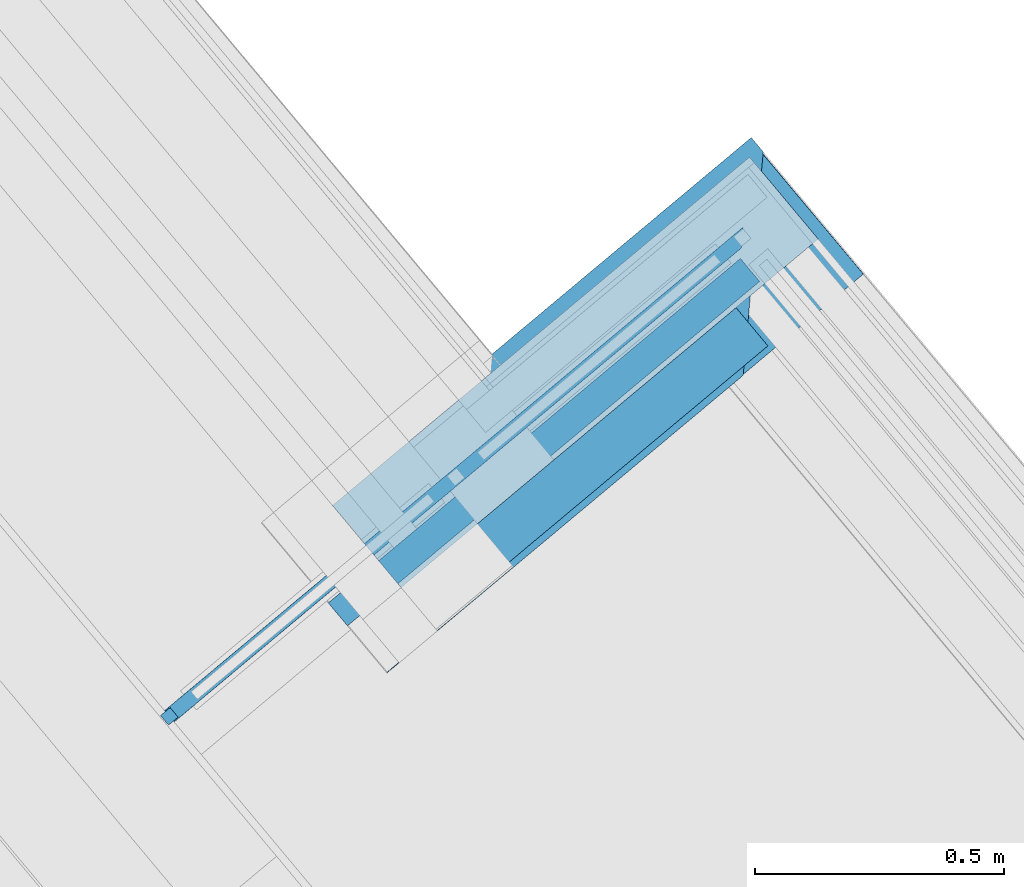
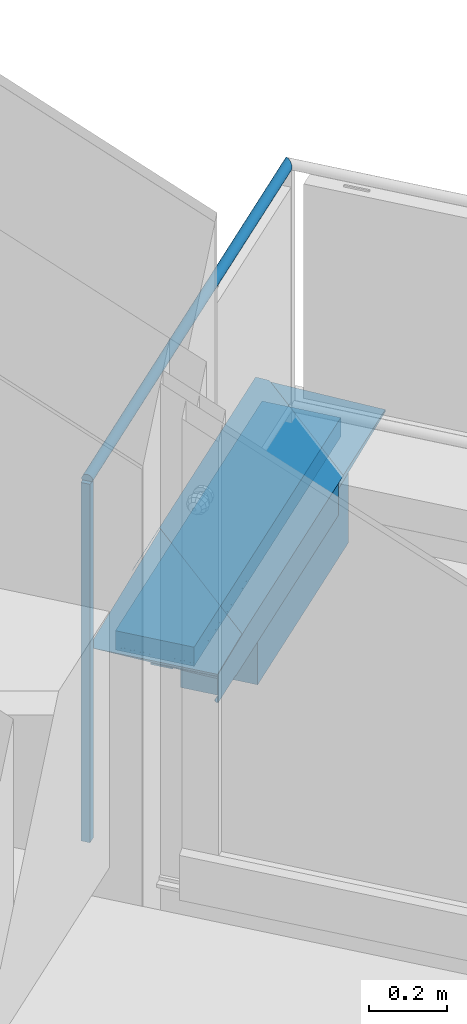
# One storey, part 37 of 58: 7 building element parts, 2 elements without a shape of their own.
"""IFC4 building model written with IfcOpenShell, lengths in metres."""

from ifc_helpers import new_model, entity, si_unit, converted_unit, derived_unit, direction, frame, origin_with_axes, place, context, subcontext, project, spatial, polygons, material, type_object, element, aggregate, save


model = new_model("IFC4")

# Units and contexts
model_context = context("Model", 3, precision=1e-05, world=origin_with_axes(), true_north=direction((0.0, 1.0)))
body_context = subcontext(model_context, "Body", "Model", "MODEL_VIEW")
ifc_project = project(units=[si_unit("LENGTHUNIT", "METRE"), si_unit("AREAUNIT", "SQUARE_METRE"), si_unit("VOLUMEUNIT", "CUBIC_METRE"), converted_unit("PLANEANGLEUNIT", "DEGREE", entity("IfcPlaneAngleMeasure", 0.0174532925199), si_unit("PLANEANGLEUNIT", "RADIAN"), dimensions=[0, 0, 0, 0, 0, 0, 0]), converted_unit("TIMEUNIT", "Year", entity("IfcTimeMeasure", 31556926.0), si_unit("TIMEUNIT", "SECOND"), dimensions=[0, 0, 1, 0, 0, 0, 0]), si_unit("MASSUNIT", "GRAM", prefix="KILO"), si_unit("THERMODYNAMICTEMPERATUREUNIT", "DEGREE_CELSIUS"), si_unit("LUMINOUSINTENSITYUNIT", "LUMEN"), si_unit("ENERGYUNIT", "JOULE", prefix="MEGA"), derived_unit("THERMALCONDUCTANCEUNIT", [(si_unit("POWERUNIT", "WATT"), 1), (si_unit("LENGTHUNIT", "METRE"), -1), (si_unit("THERMODYNAMICTEMPERATUREUNIT", "KELVIN"), -1)]), derived_unit("SPECIFICHEATCAPACITYUNIT", [(si_unit("ENERGYUNIT", "JOULE"), 1), (si_unit("MASSUNIT", "GRAM", prefix="KILO"), -1), (si_unit("THERMODYNAMICTEMPERATUREUNIT", "KELVIN"), -1)]), derived_unit("MASSDENSITYUNIT", [(si_unit("MASSUNIT", "GRAM", prefix="KILO"), 1), (si_unit("VOLUMEUNIT", "CUBIC_METRE"), -1)])], contexts=[model_context])

# Site, building, storey
site_placement = place(None, frame((-0.00153261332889, -0.00661245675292, 0.0), z_axis=(0.0, 0.0, 1.0), x_axis=(1.0, 0.0, 0.0)))
site = spatial("IfcSite", under=ifc_project, at=site_placement, Name="Site", CompositionType="ELEMENT")
building_placement = place(site_placement, origin_with_axes())
building = spatial("IfcBuilding", under=site, at=building_placement, Name="Building", CompositionType="ELEMENT")
storey_placement = place(building_placement, frame((0.0, 0.0, 5.7), z_axis=(0.0, 0.0, 1.0), x_axis=(1.0, 0.0, 0.0)))
storey = spatial("IfcBuildingStorey", under=building, at=storey_placement, Name="DG1", CompositionType="ELEMENT", Elevation=5.7)

# Wall, building element parts
wall_type = type_object("IfcWallType", Name="Bauteil - Attika Balkon 356 x 610", PredefinedType="NOTDEFINED")
wall_placement = place(storey_placement, frame((10.0769189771, 25.3809042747, -0.2), z_axis=(0.0, 0.0, 1.0), x_axis=(0.767365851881, 0.641209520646, 0.0)))
wall = element("IfcWall", 1, at=wall_placement, inside=storey, type_object=wall_type, Name="Wand-003", PredefinedType="NOTDEFINED")
ifc_material_1 = material(Name="Brettschichtholz")
building_element_part_1_placement = place(wall_placement, origin_with_axes())
building_element_part_1 = element("IfcBuildingElementPart", 2, at=building_element_part_1_placement, material=ifc_material_1, Name="Brettschichtholz", PredefinedType="NOTDEFINED", context=body_context, shape_type="Tessellation", body=[
    polygons([(-0.2, 0.010142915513, 0.560000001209), (-0.2, 0.0, 0.560000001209), (0.891929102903, 0.0, 0.56000000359), (0.891929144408, 0.010142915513, 0.56000000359), (-0.2, 0.0, 0.519273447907), (-0.2, 0.0701429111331, 0.560000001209), (-0.2, 0.130124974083, 0.560000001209), (-0.2, 0.190124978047, 0.560000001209), (-0.2, 0.214999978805, 0.560000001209), (-0.2, 0.214999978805, 0.519273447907), (-0.2, 0.0, 0.519224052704), (-0.2, 0.0, 0.511410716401), (0.21499996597, 0.0, 0.511410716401), (0.238182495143, 0.0, 0.511410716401), (0.240097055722, 0.0, 0.511410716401), (0.240146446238, 0.0, 0.511361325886), (0.23823188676, 0.0, 0.511361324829), (0.214999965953, 0.0, 0.511361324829), (-0.200000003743, 0.0, 0.511361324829), (-0.2, 0.0, 0.509099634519), (0.214999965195, 0.0, 0.509099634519), (0.240493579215, 0.0, 0.509099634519), (0.240592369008, 0.0, 0.509099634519), (0.240542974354, 0.0, 0.509050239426), (0.214999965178, 0.0, 0.50905023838), (-0.200000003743, 0.0, 0.50905023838), (-0.2, 0.0, 0.506731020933), (-0.2, 0.0, 0.499999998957), (0.89192910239, 0.0, 0.499999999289), (0.891929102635, 0.0, 0.509099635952), (0.891929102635, 0.0, 0.511410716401), (0.891929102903, 0.0, 0.519273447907), (0.891929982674, 0.214999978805, 0.519273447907), (0.891929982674, 0.214999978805, 0.56000000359), (0.891929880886, 0.190124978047, 0.56000000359), (0.891929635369, 0.130124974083, 0.56000000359), (0.891929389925, 0.0701429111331, 0.56000000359), (0.891929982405, 0.214999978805, 0.511410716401), (0.891929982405, 0.214999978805, 0.509099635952), (0.89192998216, 0.214999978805, 0.499999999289), (-0.2, 0.214999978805, 0.499999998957), (-0.2, 0.214999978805, 0.506731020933), (-0.200000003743, 0.214999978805, 0.50905023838), (0.214999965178, 0.214999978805, 0.50905023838), (0.240542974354, 0.214999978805, 0.509050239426), (0.240592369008, 0.214999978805, 0.509099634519), (0.240493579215, 0.214999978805, 0.509099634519), (0.214999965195, 0.214999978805, 0.509099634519), (-0.2, 0.214999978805, 0.509099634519), (-0.200000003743, 0.214999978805, 0.511361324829), (0.214999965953, 0.214999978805, 0.511361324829), (0.23823188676, 0.214999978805, 0.511361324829), (0.240146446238, 0.214999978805, 0.511361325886), (0.240097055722, 0.214999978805, 0.511410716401), (0.238182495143, 0.214999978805, 0.511410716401), (0.21499996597, 0.214999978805, 0.511410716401), (-0.2, 0.214999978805, 0.511410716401), (-0.2, 0.214999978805, 0.519224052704)], [[[1, 2, 3, 4]], [[5, 2, 1, 6, 7, 8, 9, 10]], [[2, 5, 11, 12, 13, 14, 15, 16, 17, 18, 19, 20, 21, 22, 23, 24, 25, 26, 27, 28, 29, 30, 31, 32, 3]], [[4, 3, 32, 33, 34, 35, 36, 37]], [[6, 1, 4, 37]], [[7, 6, 37, 36]], [[8, 7, 36, 35]], [[9, 8, 35, 34]], [[10, 9, 34, 33, 38, 39, 40, 41, 42, 43, 44, 45, 46, 47, 48, 49, 50, 51, 52, 53, 54, 55, 56, 57, 58]], [[5, 10, 58, 11]], [[11, 58, 57, 12]], [[12, 57, 56, 13]], [[55, 14, 13, 56]], [[15, 14, 55, 54]], [[16, 15, 54, 53]], [[17, 16, 53, 52]], [[17, 52, 51, 18]], [[18, 51, 50, 19]], [[19, 50, 49, 20]], [[20, 49, 48, 21]], [[47, 22, 21, 48]], [[23, 22, 47, 46]], [[24, 23, 46, 45]], [[24, 45, 44, 25]], [[25, 44, 43, 26]], [[26, 43, 42, 27]], [[27, 42, 41, 28]], [[28, 41, 40, 29]], [[39, 30, 29, 40]], [[38, 31, 30, 39]], [[33, 32, 31, 38]]], closed=True),
])
ifc_material_2 = material(Name="Vollholz")
building_element_part_2_placement = place(wall_placement, origin_with_axes())
building_element_part_2 = element("IfcBuildingElementPart", 3, at=building_element_part_2_placement, material=ifc_material_2, Name="Vollholz", PredefinedType="NOTDEFINED", context=body_context, shape_type="Tessellation", body=[
    polygons([(0.747072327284, 0.0701429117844, 0.57982217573), (0.747072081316, 0.0100326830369, 0.57982217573), (0.747072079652, 0.0100562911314, 0.575576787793), (0.747072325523, 0.0701429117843, 0.575576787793), (0.747072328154, 0.0701429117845, 0.581921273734), (-0.100000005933, 0.0100540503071, 0.57597974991), (-0.111539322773, 0.0100562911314, 0.575576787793), (-0.160110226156, 0.010065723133, 0.573880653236), (-0.160063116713, 0.0100987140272, 0.567947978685), (-0.160000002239, 0.0101429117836, 0.559999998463), (0.747072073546, 0.0101429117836, 0.559999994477), (-0.332051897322, 0.0100326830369, 0.579822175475), (-0.332051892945, 0.0100540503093, 0.575979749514), (-0.330698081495, 0.0100540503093, 0.575979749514), (-0.330280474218, 0.0100540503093, 0.57597974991), (0.747072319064, 0.0701429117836, 0.559999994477), (-0.160000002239, 0.0701429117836, 0.559999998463), (-0.160063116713, 0.0701429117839, 0.567947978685), (-0.160110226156, 0.0701429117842, 0.573880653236), (-0.111539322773, 0.0701429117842, 0.575576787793), (-0.100000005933, 0.0701429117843, 0.57597974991), (-0.330280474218, 0.0701429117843, 0.57597974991), (-0.330698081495, 0.0701429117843, 0.575979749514), (-0.332051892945, 0.0701429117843, 0.575979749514), (-0.332051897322, 0.0701429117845, 0.581921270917)], [[[1, 2, 3, 4]], [[5, 2, 1]], [[6, 7, 8, 9, 10, 11, 3, 2, 12, 13, 14, 15]], [[4, 3, 11, 16]], [[5, 1, 4, 16, 17, 18, 19, 20, 21, 22, 23, 24, 25]], [[2, 5, 25, 12]], [[7, 6, 21, 20]], [[7, 20, 19, 8]], [[8, 19, 18, 9]], [[9, 18, 17, 10]], [[10, 17, 16, 11]], [[24, 13, 12, 25]], [[23, 14, 13, 24]], [[22, 15, 14, 23]], [[6, 15, 22, 21]]], closed=True),
])
ifc_material_3 = material(Name="EPS 1")
building_element_part_3_placement = place(wall_placement, origin_with_axes())
building_element_part_3 = element("IfcBuildingElementPart", 4, at=building_element_part_3_placement, material=ifc_material_3, Name="EPS 1", PredefinedType="NOTDEFINED", context=body_context, shape_type="Tessellation", body=[
    polygons([(-0.300000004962, 2.39905872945e-10, 0.559999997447), (-0.300000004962, -0.0999999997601, 0.559999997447), (0.676928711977, -0.0999999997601, 0.560000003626), (0.676929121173, 2.39905872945e-10, 0.560000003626), (-0.300000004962, -0.0999999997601, 0.519273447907), (-0.300000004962, 2.39907649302e-10, 0.519273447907), (-0.300000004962, -0.0999999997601, 0.519224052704), (-0.300000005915, -0.0999999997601, 0.511410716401), (-0.300000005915, -0.0999999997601, 0.511361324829), (-0.300000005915, -0.0999999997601, 0.509099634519), (-0.300000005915, -0.0999999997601, 0.50905023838), (-0.300000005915, -0.0999999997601, 0.506731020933), (-0.300000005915, -0.0999999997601, 0.499999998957), (-0.199999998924, -0.0999999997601, 0.500000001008), (-1.82835790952e-09, -0.0999999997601, 0.500000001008), (-1.82835790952e-09, -0.0999999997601, 0.498915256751), (-1.82835790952e-09, -0.0999999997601, 0.498822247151), (-1.82835790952e-09, -0.0999999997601, 0.496604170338), (-1.82835790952e-09, -0.0999999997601, 0.49100648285), (-1.82835790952e-09, -0.0999999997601, 0.488695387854), (-1.82835790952e-09, -0.0999999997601, 0.335), (0.676928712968, -0.0999999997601, 0.334999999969), (0.676928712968, -0.0999999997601, 0.496604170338), (0.676928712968, -0.0999999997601, 0.498915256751), (0.676928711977, -0.0999999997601, 0.499999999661), (0.676928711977, -0.0999999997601, 0.506731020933), (0.676928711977, -0.0999999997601, 0.509099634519), (0.676928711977, -0.0999999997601, 0.511410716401), (0.676928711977, -0.0999999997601, 0.519273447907), (0.676929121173, 2.39907649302e-10, 0.519273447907), (0.676929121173, 2.39907649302e-10, 0.511410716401), (0.676929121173, 2.39907649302e-10, 0.509099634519), (0.676929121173, 2.39907649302e-10, 0.506731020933), (0.676929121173, 2.39912978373e-10, 0.499999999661), (0.676929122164, 2.39911202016e-10, 0.498915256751), (0.676929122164, 2.39911202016e-10, 0.496604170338), (0.676929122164, 2.39905872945e-10, 0.334999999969), (-1.8283543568e-09, 2.39909425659e-10, 0.335), (-1.8283543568e-09, 2.39909425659e-10, 0.488695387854), (-1.8283543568e-09, 2.39909425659e-10, 0.49100648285), (-1.8283543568e-09, 2.39909425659e-10, 0.496604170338), (-1.8283543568e-09, 2.39909425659e-10, 0.498822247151), (-1.8283543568e-09, 2.39909425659e-10, 0.498915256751), (-1.8283543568e-09, 2.39909425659e-10, 0.500000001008), (-0.199999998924, 2.39909425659e-10, 0.500000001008), (-0.300000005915, 2.39909425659e-10, 0.499999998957), (-0.300000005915, 2.39909425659e-10, 0.506731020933), (-0.300000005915, 2.39909425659e-10, 0.50905023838), (-0.300000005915, 2.39909425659e-10, 0.509099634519), (-0.300000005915, 2.39909425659e-10, 0.511361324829), (-0.300000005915, 2.39909425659e-10, 0.511410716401), (-0.300000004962, 2.39907649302e-10, 0.519224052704)], [[[1, 2, 3, 4]], [[5, 2, 1, 6]], [[2, 5, 7, 8, 9, 10, 11, 12, 13, 14, 15, 16, 17, 18, 19, 20, 21, 22, 23, 24, 25, 26, 27, 28, 29, 3]], [[4, 3, 29, 30]], [[6, 1, 4, 30, 31, 32, 33, 34, 35, 36, 37, 38, 39, 40, 41, 42, 43, 44, 45, 46, 47, 48, 49, 50, 51, 52]], [[5, 6, 52, 7]], [[7, 52, 51, 8]], [[8, 51, 50, 9]], [[9, 50, 49, 10]], [[10, 49, 48, 11]], [[11, 48, 47, 12]], [[12, 47, 46, 13]], [[13, 46, 45, 14]], [[15, 14, 45, 44]], [[16, 15, 44, 43]], [[16, 43, 42, 17]], [[17, 42, 41, 18]], [[18, 41, 40, 19]], [[19, 40, 39, 20]], [[20, 39, 38, 21]], [[21, 38, 37, 22]], [[36, 23, 22, 37]], [[35, 24, 23, 36]], [[34, 25, 24, 35]], [[33, 26, 25, 34]], [[32, 27, 26, 33]], [[31, 28, 27, 32]], [[30, 29, 28, 31]]], closed=True),
])
ifc_material_4 = material(Name="Holzwerkstoff")
building_element_part_4_placement = place(wall_placement, origin_with_axes())
building_element_part_4 = element("IfcBuildingElementPart", 5, at=building_element_part_4_placement, material=ifc_material_4, Name="Holzwerkstoff", PredefinedType="NOTDEFINED", context=body_context, shape_type="Tessellation", body=[
    polygons([(-0.112227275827, 0.239720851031, 0.595846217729), (0.239276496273, 0.23927649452, 0.608570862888), (0.916206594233, 0.23927649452, 0.608570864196), (0.916650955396, 0.239720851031, 0.595846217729), (0.916930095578, 0.23999998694, 0.587852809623), (-0.330695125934, 0.23999998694, 0.587852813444), (-0.330698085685, 0.239997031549, 0.587937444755), (-0.112227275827, -0.112247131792, 0.595846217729), (0.916649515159, -0.112247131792, 0.595846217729), (0.91692865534, -0.111967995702, 0.587852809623), (-0.330634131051, 0.189984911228, 0.586106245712), (0.866914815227, 0.189984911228, 0.586106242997), (-0.330634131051, -0.111907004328, 0.586106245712), (-0.330698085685, -0.111970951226, 0.587937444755), (0.866913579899, -0.11190700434, 0.586106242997), (-0.330561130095, -0.111834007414, 0.584015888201), (-0.330487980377, -0.111760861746, 0.581921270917), (-0.330698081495, -0.111760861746, 0.581921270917), (-0.332051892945, -0.111760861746, 0.581921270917), (-0.332051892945, -0.111553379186, 0.575979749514), (-0.330698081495, -0.111553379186, 0.575979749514), (-0.330280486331, -0.111553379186, 0.575979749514), (-0.330266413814, -0.111539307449, 0.575576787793), (0.565389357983, -0.111539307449, 0.575576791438), (0.686961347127, -0.111687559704, 0.579822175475), (0.747071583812, -0.111760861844, 0.581921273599), (0.807053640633, -0.111834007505, 0.584015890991), (-0.330561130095, 0.13012497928, 0.584015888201), (0.807054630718, 0.13012497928, 0.584015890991), (-0.330487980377, 0.0701429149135, 0.581921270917), (-0.330698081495, 0.0701429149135, 0.581921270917), (-0.332051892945, 0.0701429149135, 0.581921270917), (-0.332051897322, 0.0100326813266, 0.579822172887), (-0.332051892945, -0.0999999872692, 0.575979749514), (-0.330698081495, -0.100000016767, 0.575979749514), (-0.330280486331, -0.100000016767, 0.575979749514), (0.686961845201, 0.0100326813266, 0.579822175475), (0.747072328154, 0.0701429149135, 0.581921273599)], [[[1, 2, 3, 4, 5, 6, 7]], [[8, 2, 1]], [[2, 8, 9, 3]], [[4, 3, 9]], [[5, 4, 9, 10]], [[11, 6, 5, 12]], [[6, 11, 13, 14, 7]], [[8, 1, 7, 14]], [[15, 10, 9, 8, 14, 13, 16, 17, 18, 19, 20, 21, 22, 23, 24, 25, 26, 27]], [[12, 5, 10, 15]], [[28, 11, 12, 29]], [[13, 11, 28, 16]], [[16, 28, 30, 17]], [[31, 18, 17, 30]], [[19, 18, 31, 32]], [[32, 33, 34, 20, 19]], [[35, 21, 20, 34]], [[22, 21, 35, 36]], [[36, 23, 22]], [[37, 24, 23, 36, 35, 34, 33]], [[24, 37, 25]], [[26, 25, 37, 38]], [[26, 38, 29, 27]], [[27, 29, 12, 15]], [[38, 30, 28, 29]], [[32, 31, 30, 38, 37, 33]]], closed=True),
])
ifc_material_5 = material(Name="Stahl")
building_element_part_5_placement = place(wall_placement, origin_with_axes())
building_element_part_5 = element("IfcBuildingElementPart", 6, at=building_element_part_5_placement, material=ifc_material_5, Name="Stahl", PredefinedType="NOTDEFINED", context=body_context, shape_type="Tessellation", body=[
    polygons([(-0.332051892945, -0.109247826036, 0.499999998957), (-0.330698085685, -0.109247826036, 0.499999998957), (-0.330698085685, -0.111162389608, 0.499999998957), (-0.332051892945, -0.111162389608, 0.499999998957), (-0.332051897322, -0.103427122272, 0.505820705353), (0.573501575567, -0.103427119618, 0.505820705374), (0.567680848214, -0.109247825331, 0.499999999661), (0.566596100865, -0.110332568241, 0.498915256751), (0.5642850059, -0.112643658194, 0.496604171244), (-0.2, -0.112643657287, 0.496604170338), (-0.2, -0.110425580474, 0.498822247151), (-0.2, -0.110332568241, 0.498915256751), (-0.2, -0.109247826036, 0.499999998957), (-0.300000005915, -0.109247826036, 0.499999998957), (-0.300000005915, -0.111162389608, 0.499999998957), (-0.2, -0.111162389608, 0.499999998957), (-0.2, -0.112247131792, 0.498915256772), (0.564681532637, -0.112247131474, 0.498915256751), (0.566596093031, -0.112247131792, 0.498915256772), (0.56768084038, -0.111162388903, 0.499999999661), (0.573501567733, -0.105341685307, 0.505820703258), (0.572497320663, -0.104431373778, 0.506731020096), (-0.332051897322, -0.104431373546, 0.506731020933), (0.566596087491, -0.113600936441, 0.498915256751), (0.565242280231, -0.113600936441, 0.497561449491), (-0.2, -0.113600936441, 0.497561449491), (-0.2, -0.113600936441, 0.498822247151), (-0.2, -0.113600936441, 0.498915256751), (-0.330698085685, -0.112247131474, 0.499999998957), (-0.332051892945, -0.112247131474, 0.499999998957), (-0.332051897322, -0.112247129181, 0.589243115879), (-0.149650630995, -0.112247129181, 0.595846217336), (0.564681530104, -0.112247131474, 0.595846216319), (0.564681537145, -0.112247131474, 0.586106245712), (0.564681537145, -0.112247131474, 0.584015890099), (0.564681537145, -0.112247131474, 0.581921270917), (0.564681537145, -0.112247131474, 0.579822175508), (0.564681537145, -0.112247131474, 0.575576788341), (0.564681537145, -0.112247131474, 0.559999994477), (0.564681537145, -0.112247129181, 0.519273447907), (0.564681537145, -0.112247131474, 0.511410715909), (0.564681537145, -0.112247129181, 0.509099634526), (0.564681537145, -0.112247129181, 0.506731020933), (0.564681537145, -0.112247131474, 0.499999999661), (-0.2, -0.112247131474, 0.499999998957), (-0.300000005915, -0.112247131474, 0.499999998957), (0.564681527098, -0.11360093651, 0.498915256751), (-0.332051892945, -0.11360093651, 0.499999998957), (-0.330698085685, -0.11360093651, 0.499999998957), (-0.300000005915, -0.11360093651, 0.499999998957), (-0.2, -0.11360093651, 0.499999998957), (0.564681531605, -0.11360093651, 0.499999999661), (0.564681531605, -0.113600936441, 0.506731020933), (0.564681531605, -0.113600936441, 0.509099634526), (0.564681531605, -0.11360093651, 0.511410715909), (0.564681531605, -0.1136009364, 0.519273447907), (0.564681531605, -0.11360093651, 0.559999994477), (0.564681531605, -0.11360093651, 0.575576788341), (0.564681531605, -0.11360093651, 0.579822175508), (0.564681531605, -0.11360093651, 0.581921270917), (0.564681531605, -0.11360093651, 0.584015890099), (0.564681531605, -0.11360093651, 0.586106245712), (0.564681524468, -0.11360093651, 0.5958462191), (0.600751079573, -0.11360093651, 0.597151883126), (-0.11358351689, -0.113600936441, 0.597151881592), (-0.332051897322, -0.113600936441, 0.589243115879), (0.241500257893, 0.241343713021, 0.610006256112), (0.241500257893, 0.242707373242, 0.610006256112), (0.20273064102, 0.242707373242, 0.608602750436), (0.20273064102, 0.241359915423, 0.608602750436), (0.204094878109, 0.24135992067, 0.60865214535), (0.201849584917, 0.23927649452, 0.608570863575), (0.916206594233, 0.239276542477, 0.608570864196), (0.916206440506, 0.201708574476, 0.608570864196), (0.0, 0.242707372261, 0.610055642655), (0.0, 0.241343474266, 0.610006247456), (0.918289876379, 0.203952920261, 0.608652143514), (0.919637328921, 0.203952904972, 0.60865214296), (0.919637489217, 0.242707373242, 0.610055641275), (0.0, 0.242707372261, 0.610006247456), (0.919637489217, 0.242707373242, 0.510056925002), (0.239536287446, 0.242707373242, 0.510056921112), (0.238231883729, 0.242707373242, 0.511361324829), (0.240146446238, 0.242707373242, 0.511361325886), (0.240146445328, 0.242707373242, 0.511410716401), (0.240146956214, 0.242707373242, 0.519224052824), (0.240146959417, 0.242707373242, 0.519273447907), (0.240149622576, 0.242707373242, 0.559999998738), (0.240150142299, 0.242707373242, 0.567947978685), (0.240150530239, 0.242707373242, 0.573880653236), (0.240150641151, 0.242707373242, 0.575576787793), (0.240150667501, 0.242707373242, 0.575979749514), (0.240150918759, 0.242707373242, 0.57982217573), (0.24015105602, 0.242707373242, 0.581921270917), (0.240151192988, 0.242707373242, 0.584015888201), (0.240151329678, 0.242707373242, 0.58610624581), (0.240151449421, 0.242707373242, 0.587937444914), (0.24015196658, 0.242707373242, 0.595846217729), (0.240152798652, 0.242707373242, 0.608570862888), (0.240152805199, 0.242707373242, 0.608602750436), (0.240152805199, 0.241359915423, 0.608602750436), (0.240152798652, 0.241359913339, 0.608570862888), (0.24015196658, 0.241359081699, 0.595846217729), (0.240151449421, 0.241358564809, 0.587937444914), (0.240151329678, 0.241358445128, 0.58610624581), (0.240151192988, 0.241358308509, 0.584015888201), (0.24015105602, 0.241358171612, 0.581921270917), (0.240150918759, 0.241358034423, 0.57982217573), (0.240150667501, 0.241357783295, 0.575979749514), (0.240150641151, 0.241357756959, 0.575576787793), (0.240150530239, 0.241357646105, 0.573880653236), (0.240150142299, 0.241357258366, 0.567947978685), (0.240149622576, 0.241356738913, 0.559999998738), (0.240146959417, 0.241354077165, 0.519273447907), (0.240146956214, 0.241354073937, 0.519224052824), (0.240146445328, 0.241353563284, 0.511410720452), (0.918283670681, 0.24135356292, 0.511410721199), (0.919637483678, 0.241353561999, 0.511410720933), (0.919637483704, 0.24135992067, 0.60865214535), (0.918290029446, 0.2413599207, 0.608652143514), (0.919637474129, 0.23943900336, 0.511410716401), (0.919637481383, 0.24079279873, 0.510056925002), (0.240493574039, 0.241750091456, 0.509099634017), (0.918680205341, 0.241750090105, 0.509099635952), (0.238231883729, 0.239488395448, 0.511361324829), (0.240146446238, 0.239488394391, 0.511361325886), (0.240146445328, 0.239439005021, 0.511410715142), (0.2381824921, 0.241353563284, 0.511410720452), (0.231373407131, 0.234544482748, 0.518219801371), (0.232283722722, 0.233540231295, 0.519224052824), (0.240146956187, 0.233540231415, 0.519224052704), (0.240146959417, 0.233490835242, 0.519273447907), (0.910420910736, 0.233490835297, 0.519273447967), (0.240097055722, 0.241353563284, 0.511410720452), (0.918283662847, 0.239438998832, 0.511410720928), (0.231418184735, 0.232580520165, 0.518269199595), (0.231373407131, 0.23262991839, 0.518219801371), (0.2381824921, 0.239439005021, 0.511410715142), (0.240097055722, 0.239439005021, 0.511410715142), (0.911425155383, 0.232580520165, 0.518269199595), (0.232283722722, 0.233446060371, 0.519224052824), (0.240146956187, 0.233446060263, 0.519224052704)], [[[1, 2, 3, 4]], [[2, 1, 5, 6, 7, 8, 9, 10, 11, 12, 13, 14]], [[3, 2, 14, 15]], [[4, 3, 15, 16, 17, 18, 19, 20, 21, 22, 23]], [[1, 4, 23, 5]], [[5, 23, 22, 6]], [[20, 7, 6, 21]], [[8, 7, 20, 19]], [[9, 8, 19, 24, 25]], [[26, 10, 9, 25]], [[27, 11, 10, 26]], [[11, 27, 28, 17, 12]], [[13, 12, 17, 16]], [[15, 14, 13, 16]], [[29, 30, 31, 32, 33, 34, 35, 36, 37, 38, 39, 40, 41, 42, 43, 44, 18, 17, 45, 46]], [[18, 47, 24, 19]], [[6, 22, 21]], [[48, 49, 50, 51, 28, 27, 26, 25, 24, 47, 52, 53, 54, 55, 56, 57, 58, 59, 60, 61, 62, 63, 64, 65, 66]], [[17, 28, 51, 45]], [[48, 30, 29, 49]], [[30, 48, 66, 31]], [[31, 66, 65, 67, 68, 69, 70, 71, 72, 32]], [[32, 72, 73, 33]], [[33, 63, 62, 34]], [[62, 61, 35, 34]], [[61, 60, 36, 35]], [[60, 59, 37, 36]], [[59, 58, 38, 37]], [[58, 57, 39, 38]], [[39, 57, 56, 40]], [[56, 55, 41, 40]], [[55, 54, 42, 41]], [[54, 53, 43, 42]], [[53, 52, 44, 43]], [[18, 44, 52, 47]], [[50, 46, 45, 51]], [[49, 29, 46, 50]], [[63, 33, 73, 74, 64]], [[75, 76, 67, 65, 64, 74, 77, 78, 79]], [[76, 80, 68, 67]], [[80, 75, 79, 81, 82, 83, 84, 85, 86, 87, 88, 89, 90, 91, 92, 93, 94, 95, 96, 97, 98, 99, 100, 69, 68]], [[70, 69, 100, 101]], [[71, 70, 101, 102, 103, 104, 105, 106, 107, 108, 109, 110, 111, 112, 113, 114, 115, 116, 117, 118, 119, 120]], [[72, 71, 120, 73]], [[73, 120, 77, 74]], [[75, 80, 76]], [[77, 120, 119, 78]], [[121, 122, 81, 79, 78, 119, 118]], [[123, 82, 81, 124]], [[83, 82, 123, 125]], [[84, 83, 125, 126]], [[85, 84, 126, 127, 116]], [[86, 85, 116, 115]], [[87, 86, 115, 114]], [[88, 87, 114, 113]], [[89, 88, 113, 112]], [[90, 89, 112, 111]], [[91, 90, 111, 110]], [[91, 110, 109, 92]], [[93, 92, 109, 108]], [[93, 108, 107, 94]], [[94, 107, 106, 95]], [[95, 106, 105, 96]], [[96, 105, 104, 97]], [[98, 97, 104, 103]], [[98, 103, 102, 99]], [[99, 102, 101, 100]], [[128, 129, 130, 131, 132, 133, 117, 116, 134]], [[117, 135, 121, 118]], [[136, 137, 138, 139, 127, 126, 125, 123, 124, 122, 121, 135, 140]], [[124, 81, 122]], [[134, 116, 127, 139]], [[129, 128, 138, 137]], [[129, 137, 136, 141, 130]], [[130, 141, 142, 131]], [[132, 131, 142]], [[141, 136, 140, 133, 132, 142]], [[117, 133, 140, 135]], [[138, 128, 134, 139]]], closed=True),
])
aggregate(wall, [building_element_part_1, building_element_part_2, building_element_part_3, building_element_part_4, building_element_part_5])

# Railing, building element parts
railing_type = type_object("IfcRailingType", Name="Geländerart", PredefinedType="NOTDEFINED")
railing_placement = place(storey_placement, frame((13.1317464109, 20.5971564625, 0.38), z_axis=(0.0, 0.0, 1.0), x_axis=(1.0, 0.0, 0.0)))
railing = element("IfcRailing", 7, at=railing_placement, inside=storey, type_object=railing_type, Name="Geländer - 001", PredefinedType="NOTDEFINED")
ifc_material_6 = material(Name="Aluminium")
building_element_part_6_placement = place(railing_placement, origin_with_axes())
building_element_part_6 = element("IfcBuildingElementPart", 8, at=building_element_part_6_placement, material=ifc_material_6, Name="Aluminium", PredefinedType="NOTDEFINED", context=body_context, shape_type="Tessellation", body=[
    polygons([(-3.69152561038, 4.39832939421, -0.3), (-3.67549537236, 4.37914524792, -0.3), (-3.67549537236, 4.37914524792, 0.82), (-3.69152561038, 4.39832939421, 0.82), (-3.67234146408, 4.41435963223, -0.3), (-3.65631122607, 4.39517548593, -0.3), (-3.65631122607, 4.39517548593, 0.82), (-3.67234146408, 4.41435963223, 0.82)], [[[1, 2, 3, 4]], [[1, 5, 6, 2]], [[2, 6, 7, 3]], [[4, 3, 7, 8]], [[5, 1, 4, 8]], [[6, 5, 8, 7]]], closed=True),
])
building_element_part_7_placement = place(railing_placement, origin_with_axes())
building_element_part_7 = element("IfcBuildingElementPart", 9, at=building_element_part_7_placement, material=ifc_material_6, Name="Aluminium", PredefinedType="NOTDEFINED", context=body_context, shape_type="Tessellation", body=[
    polygons([(-2.52464808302, 5.33753326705, 0.825), (-2.52461931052, 5.33785427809, 0.827604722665), (-3.66444639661, 4.38541682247, 0.827604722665), (-3.66430027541, 4.38524195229, 0.825), (-2.52461931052, 5.33785427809, 0.822395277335), (-2.52453386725, 5.33880755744, 0.81986969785), (-2.52439434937, 5.34036414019, 0.8175), (-2.52420499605, 5.34247673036, 0.815358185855), (-2.5239715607, 5.34508113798, 0.813509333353), (-2.52370113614, 5.34809822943, 0.812009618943), (-2.52340193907, 5.35143633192, 0.810904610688), (-2.52308306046, 5.35499401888, 0.810227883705), (-2.52275418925, 5.35866319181, 0.81), (-2.52242531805, 5.36233236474, 0.810227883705), (-2.52210643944, 5.36589005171, 0.810904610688), (-2.52180724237, 5.36922815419, 0.812009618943), (-2.52153681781, 5.37224524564, 0.813509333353), (-2.52130338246, 5.37484965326, 0.815358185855), (-2.52111402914, 5.37696224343, 0.8175), (-2.52097451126, 5.37851882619, 0.81986969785), (-2.52088906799, 5.37947210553, 0.822395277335), (-2.52086029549, 5.37979311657, 0.825), (-2.52088906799, 5.37947210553, 0.827604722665), (-2.52097451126, 5.37851882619, 0.83013030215), (-2.52111402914, 5.37696224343, 0.8325), (-2.52130338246, 5.37484965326, 0.834641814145), (-2.52153681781, 5.37224524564, 0.836490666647), (-2.52180724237, 5.36922815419, 0.837990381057), (-2.52210643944, 5.36589005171, 0.839095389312), (-2.52242531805, 5.36233236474, 0.839772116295), (-2.52275418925, 5.35866319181, 0.84), (-2.52308306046, 5.35499401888, 0.839772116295), (-2.52340193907, 5.35143633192, 0.839095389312), (-2.52370113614, 5.34809822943, 0.837990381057), (-2.5239715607, 5.34508113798, 0.836490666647), (-2.52420499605, 5.34247673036, 0.834641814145), (-2.52439434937, 5.34036414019, 0.8325), (-2.52453386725, 5.33880755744, 0.83013030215), (-3.6648803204, 4.38593611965, 0.83013030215), (-3.66558886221, 4.38678406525, 0.8325), (-3.66655049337, 4.38793489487, 0.834641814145), (-3.6677359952, 4.38935364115, 0.836490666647), (-3.66910934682, 4.39099719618, 0.837990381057), (-3.67062881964, 4.39281562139, 0.839095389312), (-3.67224824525, 4.39475366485, 0.839772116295), (-3.67391841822, 4.39675244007, 0.84), (-3.67558859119, 4.3987512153, 0.839772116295), (-3.6772080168, 4.40068925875, 0.839095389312), (-3.67872748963, 4.40250768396, 0.837990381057), (-3.68010084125, 4.404151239, 0.836490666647), (-3.68128634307, 4.40556998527, 0.834641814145), (-3.68224797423, 4.4067208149, 0.8325), (-3.68295651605, 4.4075687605, 0.83013030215), (-3.68339043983, 4.40808805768, 0.827604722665), (-3.68353656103, 4.40826292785, 0.825), (-3.68339043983, 4.40808805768, 0.822395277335), (-3.68295651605, 4.4075687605, 0.81986969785), (-3.68224797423, 4.4067208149, 0.8175), (-3.68128634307, 4.40556998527, 0.815358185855), (-3.68010084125, 4.404151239, 0.813509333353), (-3.67872748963, 4.40250768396, 0.812009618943), (-3.6772080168, 4.40068925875, 0.810904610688), (-3.67558859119, 4.3987512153, 0.810227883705), (-3.67391841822, 4.39675244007, 0.81), (-3.67224824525, 4.39475366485, 0.810227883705), (-3.67062881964, 4.39281562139, 0.810904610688), (-3.66910934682, 4.39099719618, 0.812009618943), (-3.6677359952, 4.38935364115, 0.813509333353), (-3.66655049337, 4.38793489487, 0.815358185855), (-3.66558886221, 4.38678406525, 0.8175), (-3.6648803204, 4.38593611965, 0.81986969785), (-3.66444639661, 4.38541682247, 0.822395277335)], [[[1, 2, 3, 4]], [[1, 5, 6, 7, 8, 9, 10, 11, 12, 13, 14, 15, 16, 17, 18, 19, 20, 21, 22, 23, 24, 25, 26, 27, 28, 29, 30, 31, 32, 33, 34, 35, 36, 37, 38, 2]], [[2, 38, 39, 3]], [[4, 3, 39, 40, 41, 42, 43, 44, 45, 46, 47, 48, 49, 50, 51, 52, 53, 54, 55, 56, 57, 58, 59, 60, 61, 62, 63, 64, 65, 66, 67, 68, 69, 70, 71, 72]], [[5, 1, 4, 72]], [[6, 5, 72, 71]], [[7, 6, 71, 70]], [[8, 7, 70, 69]], [[9, 8, 69, 68]], [[10, 9, 68, 67]], [[11, 10, 67, 66]], [[12, 11, 66, 65]], [[13, 12, 65, 64]], [[14, 13, 64, 63]], [[15, 14, 63, 62]], [[16, 15, 62, 61]], [[17, 16, 61, 60]], [[18, 17, 60, 59]], [[19, 18, 59, 58]], [[20, 19, 58, 57]], [[21, 20, 57, 56]], [[22, 21, 56, 55]], [[23, 22, 55, 54]], [[24, 23, 54, 53]], [[25, 24, 53, 52]], [[26, 25, 52, 51]], [[27, 26, 51, 50]], [[28, 27, 50, 49]], [[29, 28, 49, 48]], [[30, 29, 48, 47]], [[31, 30, 47, 46]], [[32, 31, 46, 45]], [[33, 32, 45, 44]], [[34, 33, 44, 43]], [[35, 34, 43, 42]], [[36, 35, 42, 41]], [[37, 36, 41, 40]], [[38, 37, 40, 39]]], closed=True),
])
aggregate(railing, [building_element_part_6, building_element_part_7])

save(model, "model.ifc")
